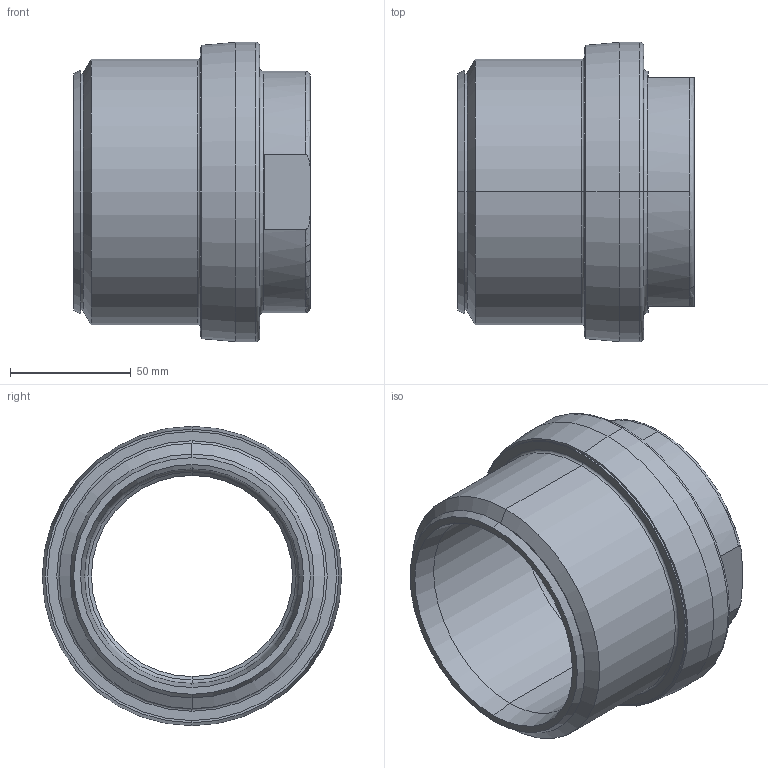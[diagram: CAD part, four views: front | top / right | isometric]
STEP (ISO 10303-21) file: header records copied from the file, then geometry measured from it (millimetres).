
FILE_DESCRIPTION (( 'STEP AP203' ), '1' );
FILE_NAME ('KP_C15-110-90F02.step', '2011-08-08T12:03:45', ( '' ), ( '' ), 'SwSTEP 2.0', 'SolidWorks 2011', '' );
FILE_SCHEMA (( 'CONFIG_CONTROL_DESIGN' ));
Length unit declared in the file: millimetre
Products named in the file (1): KP_C15-110-90F02
Bounding box: 98 x 124 x 124 mm (x, y, z)
Volume: 321464.4 mm3; surface area: 86144.6 mm2
Topology: 1 solids, 2 shells, 62 faces, 130 edges, 77 vertices
Faces by surface type: cylinder 18, cone 18, torus 13, plane 13
Entity records: 1819 total; most frequent: CARTESIAN_POINT 350, DIRECTION 334, ORIENTED_EDGE 260, AXIS2_PLACEMENT_3D 145, EDGE_CURVE 130, CIRCLE 82, VERTEX_POINT 77, EDGE_LOOP 71
